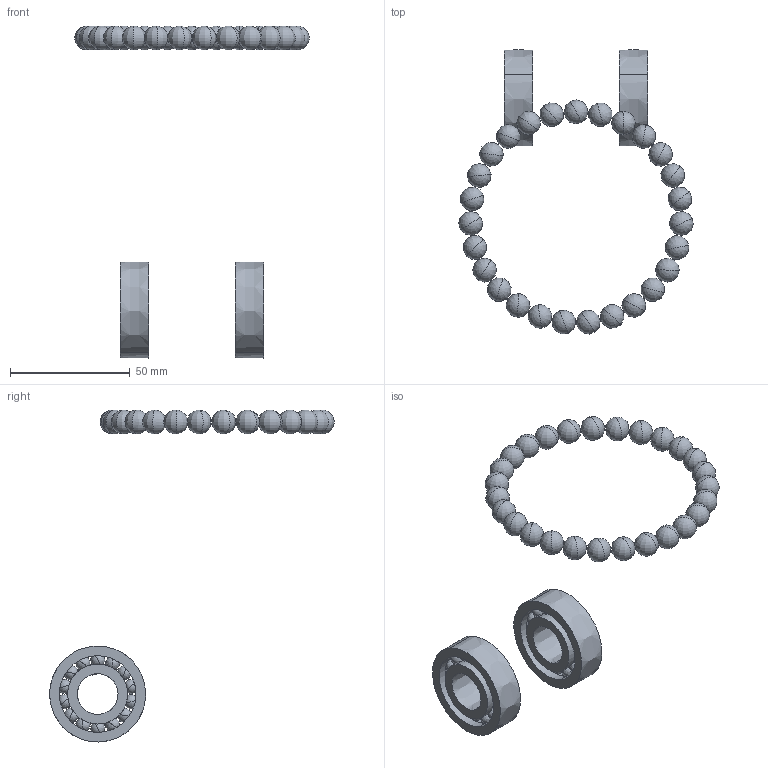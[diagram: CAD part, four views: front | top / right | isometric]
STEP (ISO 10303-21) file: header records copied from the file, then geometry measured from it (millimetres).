
FILE_DESCRIPTION (( 'STEP AP214' ), '1' );
FILE_NAME ('KTU-150WJ-GS-90.STEP', '2018-08-30T07:04:03', ( '' ), ( '' ), 'SwSTEP 2.0', 'SolidWorks 2010', '' );
FILE_SCHEMA (( 'AUTOMOTIVE_DESIGN' ));
Length unit declared in the file: millimetre
Products named in the file (1): KTU-150WJ-GS-90
Bounding box: 97.83 x 118.68 x 138.5 mm (x, y, z)
Volume: 32931.4 mm3; surface area: 23400.4 mm2
Topology: 59 solids, 59 shells, 150 faces, 470 edges, 218 vertices
Faces by surface type: bspline 142, plane 8
Entity records: 107141 total; most frequent: CARTESIAN_POINT 103846, ORIENTED_EDGE 500, EDGE_CURVE 250, B_SPLINE_CURVE_WITH_KNOTS 226, VERTEX_POINT 218, EDGE_LOOP 158, FACE_OUTER_BOUND 150, ADVANCED_FACE 150
